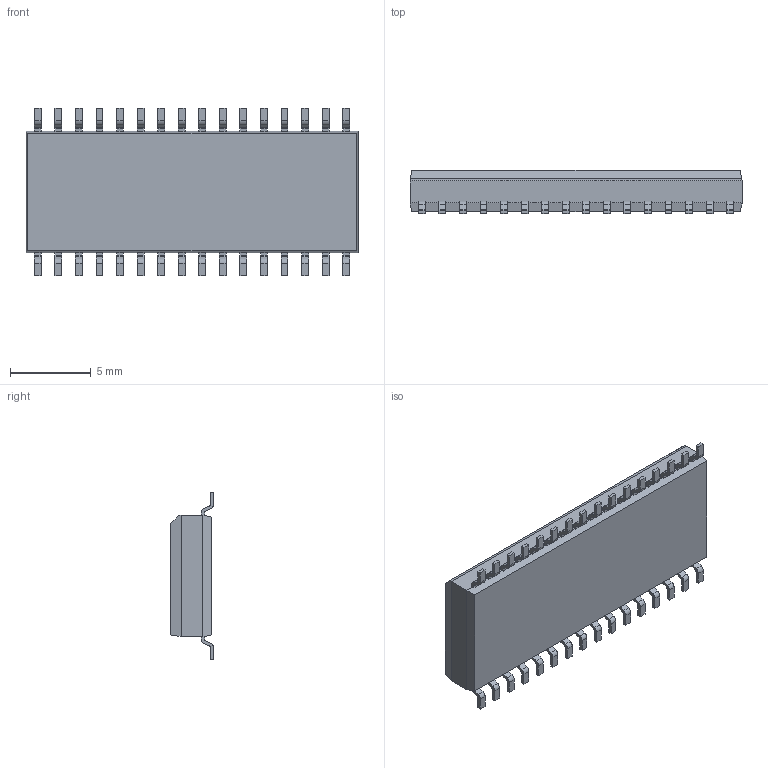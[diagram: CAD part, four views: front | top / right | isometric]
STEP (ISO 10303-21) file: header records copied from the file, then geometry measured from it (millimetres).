
FILE_DESCRIPTION (( 'STEP AP214' ), '1' );
FILE_NAME ( 'SOIC127P1032X265-32.STEP', '2013-10-02T10:01:05', ( '' ), ( '' ), 'FPX Expert 2013', 'PCB Libraries', '' );
FILE_SCHEMA (( 'AUTOMOTIVE_DESIGN' ));
Length unit declared in the file: millimetre
Products named in the file (1): SOIC127P1032X265-32
Bounding box: 20.5 x 2.65 x 10.32 mm (x, y, z)
Volume: 391.3 mm3; surface area: 507.8 mm2
Topology: 33 solids, 33 shells, 463 faces, 1183 edges, 786 vertices
Faces by surface type: plane 335, cylinder 128
Entity records: 15409 total; most frequent: CARTESIAN_POINT 2433, DIRECTION 2367, ORIENTED_EDGE 2366, EDGE_CURVE 1183, VECTOR 927, LINE 927, VERTEX_POINT 786, AXIS2_PLACEMENT_3D 720
